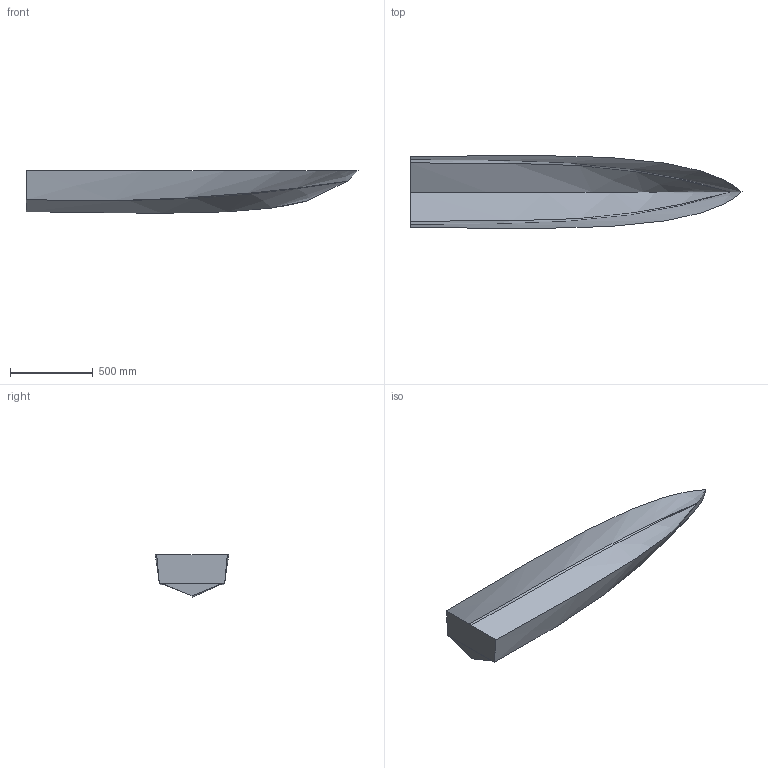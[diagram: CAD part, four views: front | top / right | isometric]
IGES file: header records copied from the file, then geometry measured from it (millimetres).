
Global section: file name: \\filestore.soton.ac.uk\users\djt2\mydocuments\Library\MyPublications\Journal\2011-IJSCT96-HSC Resistance\Models\HULL C.igs; native system: Rhinoceros ( May 22 2017 ); preprocessor: Trout Lake IGES 012 May 22 2017; date: 180801.114446; units: millimetre
Bounding box: 2000.06 x 443.06 x 256.5 mm (x, y, z)
Surface area: 1377724.5 mm2 (no closed solid volume)
Topology: 0 solids, 0 shells, 8 faces, 899 edges, 963 vertices
Faces by surface type: bspline 8
